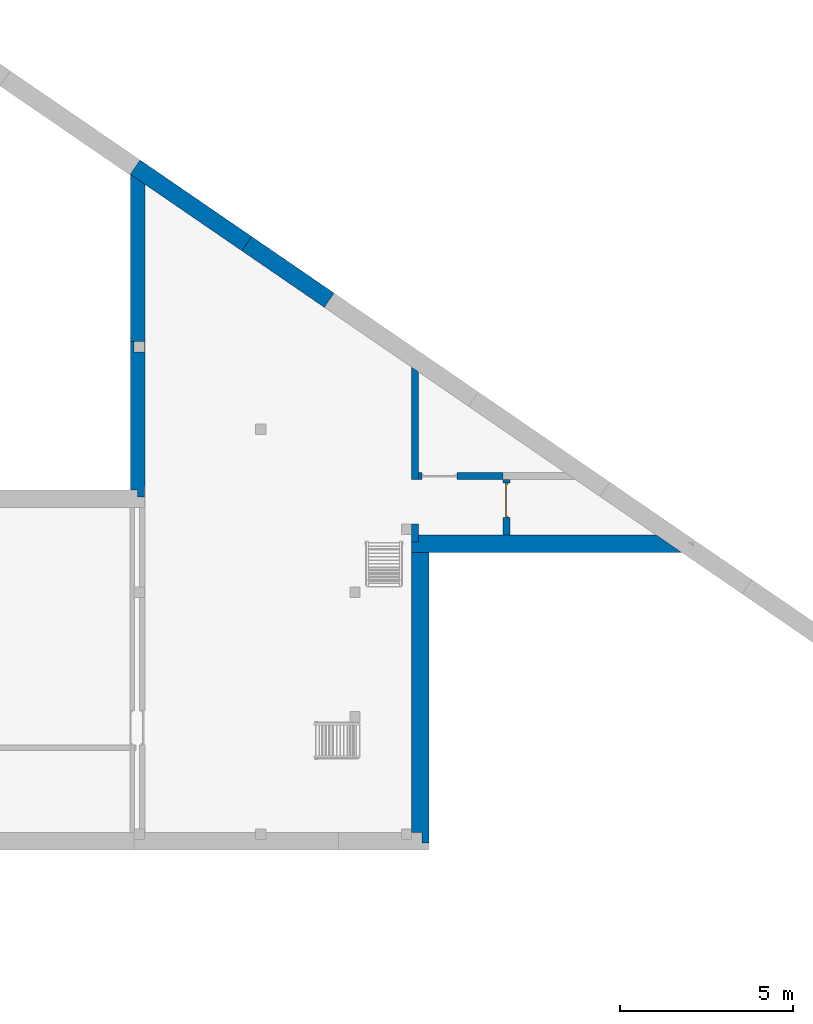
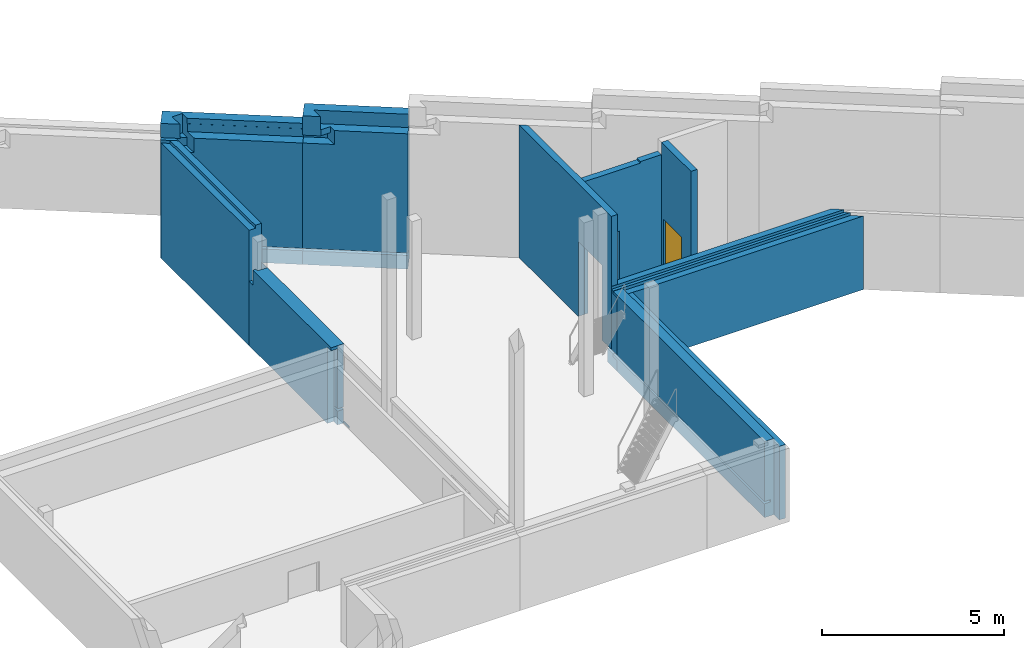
# One storey, part 6 of 8: 9 walls, 1 door, 3 openings.
"""IFC2X3 building model written with IfcOpenShell, lengths in millimetres."""

from ifc_helpers import new_model, entity, si_unit, converted_unit, derived_unit, money_unit, direction, frame, origin_with_axes, place, context, subcontext, project, spatial, faceted_brep, material, material_list, type_object, element, fill, save


model = new_model("IFC2X3")

# Units and contexts
model_context = context("Model", 3, precision=0.01, world=origin_with_axes(), true_north=direction((0.0, 1.0)))
body_context = subcontext(model_context, "Body", "Model", "MODEL_VIEW")
ifc_project = project(units=[si_unit("LENGTHUNIT", "METRE", prefix="MILLI"), si_unit("AREAUNIT", "SQUARE_METRE"), si_unit("VOLUMEUNIT", "CUBIC_METRE"), converted_unit("PLANEANGLEUNIT", "DEGREE", entity("IfcPlaneAngleMeasure", 0.0174532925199), si_unit("PLANEANGLEUNIT", "RADIAN"), dimensions=[0, 0, 0, 0, 0, 0, 0]), si_unit("SOLIDANGLEUNIT", "STERADIAN"), money_unit("EUR"), converted_unit("TIMEUNIT", "Year", entity("IfcTimeMeasure", 31556926.0), si_unit("TIMEUNIT", "SECOND"), dimensions=[0, 0, 1, 0, 0, 0, 0]), si_unit("MASSUNIT", "GRAM", prefix="KILO"), si_unit("THERMODYNAMICTEMPERATUREUNIT", "DEGREE_CELSIUS"), si_unit("LUMINOUSINTENSITYUNIT", "LUMEN"), si_unit("ENERGYUNIT", "JOULE", prefix="MEGA"), derived_unit("THERMALCONDUCTANCEUNIT", [(si_unit("POWERUNIT", "WATT"), 1), (si_unit("LENGTHUNIT", "METRE"), -1), (si_unit("THERMODYNAMICTEMPERATUREUNIT", "KELVIN"), -1)]), derived_unit("SPECIFICHEATCAPACITYUNIT", [(si_unit("ENERGYUNIT", "JOULE"), 1), (si_unit("MASSUNIT", "GRAM", prefix="KILO"), -1), (si_unit("THERMODYNAMICTEMPERATUREUNIT", "KELVIN"), -1)]), derived_unit("MASSDENSITYUNIT", [(si_unit("MASSUNIT", "GRAM", prefix="KILO"), 1), (si_unit("VOLUMEUNIT", "CUBIC_METRE"), -1)])], contexts=[model_context])

# Site, building, storey
site_placement = place(None, origin_with_axes())
site = spatial("IfcSite", under=ifc_project, at=site_placement, Name="L.Koidula tn 11b", CompositionType="ELEMENT")
building_placement = place(site_placement, origin_with_axes())
building = spatial("IfcBuilding", under=site, at=building_placement, Name="Rakvere Riigigümnaasium", CompositionType="ELEMENT")
storey_placement = place(building_placement, frame((0.0, 0.0, -2100.0), z_axis=(0.0, 0.0, 1.0), x_axis=(1.0, 0.0, 0.0)))
storey = spatial("IfcBuildingStorey", under=building, at=storey_placement, Name="1.korrus_tehniline -2,10", CompositionType="ELEMENT", Elevation=-2100.0)

# Walls
ifc_material_1 = material(Name="Krohv")
ifc_material_2 = material(Name="Betoon element / plaat")
ifc_material_3 = material(Name="SOJ-04_Soojustus - Mineraal Kõva")
ifc_material_list_1 = material_list([ifc_material_1, ifc_material_2, ifc_material_3])
wall_type_1 = type_object("IfcWallType", Name="VS-04-1 410", PredefinedType="NOTDEFINED")
wall_1_placement = place(storey_placement, frame((58180.0348101, 31500.4554969, -550.0), z_axis=(0.0, 0.0, 1.0), x_axis=(0.0, -1.0, 0.0)))
element("IfcWall", 1, at=wall_1_placement, inside=storey, type_object=wall_type_1, material=ifc_material_list_1, Name="Soklisein", context=body_context, shape_type="Brep", body=[
    faceted_brep([(4199.99994967, 10.0, 2550.0), (4199.99994716, 10.0, 550.0), (0.0, 10.0, 550.0), (0.0, 10.0, 2650.0), (4499.99994967, 10.0, 2650.0), (4499.99994967, 10.0, 2550.0), (4199.99994967, -2.01166017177e-06, 2550.0), (4199.99994716, 0.0, 550.0), (0.0, 0.0, 550.0), (0.0, 0.0, 2650.0), (4499.99994967, 0.0, 2650.0), (4499.99994967, -1.95063876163e-06, 2550.0)], [[[0, 1, 2, 3, 4, 5]], [[6, 7, 1, 0]], [[7, 8, 2, 1]], [[3, 2, 8, 9]], [[4, 3, 9, 10]], [[4, 10, 11, 5]], [[11, 6, 0, 5]], [[9, 8, 7, 6, 11, 10]]]),
    faceted_brep([(0.0, 0.0, 60.0), (0.0, 10.0, 60.0), (0.0, 10.0, 0.0), (0.0, 0.0, 0.0), (4799.99994967, 10.0, 60.0), (4799.99994967, 0.0, 60.0), (4799.99994967, 10.0, 0.0), (4799.99994967, 0.0, 0.0)], [[[0, 1, 2, 3]], [[4, 1, 0, 5]], [[1, 4, 6, 2]], [[3, 2, 6, 7]], [[5, 0, 3, 7]], [[4, 5, 7, 6]]]),
    faceted_brep([(2.38450681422e-06, -200.0, 550.0), (2.38450681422e-06, 7.17945596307e-05, 550.0), (0.0, 0.0, 540.0), (0.0, -200.0, 540.0), (300.000002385, 7.17945596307e-05, 550.0), (300.000002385, -200.0, 550.0), (300.000002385, 7.17945596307e-05, 2650.0), (4499.99994967, 0.0, 2650.0), (4499.99994967, 0.0, 540.0), (4499.99994967, -200.0, 540.0), (4499.99994967, -200.0, 2650.0), (300.000002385, -200.0, 2650.0)], [[[0, 1, 2, 3]], [[4, 1, 0, 5]], [[4, 6, 7, 8, 2, 1]], [[9, 3, 2, 8]], [[5, 0, 3, 9, 10, 11]], [[11, 6, 4, 5]], [[6, 11, 10, 7]], [[10, 9, 8, 7]]]),
    faceted_brep([(0.0, -200.0, 460.0), (0.0, 0.0, 460.0), (0.0, 0.0, 0.0), (0.0, -200.0, 0.0), (4499.99994967, 0.0, 460.0), (4499.99994967, -200.0, 460.0), (4499.99994967, 0.0, 0.0), (4499.99994967, -200.0, 0.0)], [[[0, 1, 2, 3]], [[4, 1, 0, 5]], [[1, 4, 6, 2]], [[2, 6, 7, 3]], [[5, 0, 3, 7]], [[4, 5, 7, 6]]]),
    faceted_brep([(2.38450681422e-06, -299.999928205, 2150.0), (2.38450681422e-06, -299.999928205, 550.0), (2.38450681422e-06, -200.0, 550.0), (0.0, -200.0, 0.0), (0.0, -400.0, 0.0), (-3.33873373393e-07, -400.0, 2150.0), (209.99998167, -299.999928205, 2150.0), (209.99998167, -299.999928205, 2650.0), (300.000002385, -299.999928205, 2650.0), (300.000002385, -299.999928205, 550.0), (300.000002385, -200.0, 550.0), (300.000002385, -200.0, 2650.0), (4499.99994967, -200.0, 2650.0), (4499.99994967, -200.0, 2550.0), (4299.99994967, -200.0, 2550.0), (4299.99994967, -200.0, 0.0), (4299.99994967, -400.0, 0.0), (4299.99994967, -400.0, 2550.0), (4499.99994967, -400.0, 2550.0), (4499.99994967, -400.0, 2650.0), (209.99998167, -400.0, 2650.0), (209.99998167, -400.0, 2150.0)], [[[0, 1, 2, 3, 4, 5]], [[1, 0, 6, 7, 8, 9]], [[10, 2, 1, 9]], [[10, 11, 12, 13, 14, 15, 3, 2]], [[4, 3, 15, 16]], [[4, 16, 17, 18, 19, 20, 21, 5]], [[6, 0, 5, 21]], [[7, 6, 21, 20]], [[8, 7, 20, 19, 12, 11]], [[8, 11, 10, 9]], [[12, 19, 18, 13]], [[18, 17, 14, 13]], [[16, 15, 14, 17]]]),
])
wall_2_placement = place(storey_placement, frame((58180.0348101, 36047.6974493, -550.0), z_axis=(0.0, 0.0, 1.0), x_axis=(0.0, -1.0, 0.0)))
element("IfcWall", 2, at=wall_2_placement, inside=storey, type_object=wall_type_1, material=ifc_material_list_1, Name="Soklisein", context=body_context, shape_type="Brep", body=[
    faceted_brep([(6.8587745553, 10.0, 3554.82181515), (4547.24187147, 10.0, 3554.82181515), (4547.24193992, 10.0, 550.0), (6.8587745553, 10.0, 550.0), (0.0, 0.0, 3554.82181515), (4547.24187147, 0.0, 3554.82181515), (4547.24193992, 0.0, 550.0), (0.0, 0.0, 550.0)], [[[0, 1, 2, 3]], [[4, 5, 1, 0]], [[1, 5, 6, 2]], [[2, 6, 7, 3]], [[4, 0, 3, 7]], [[5, 4, 7, 6]]]),
    faceted_brep([(0.0, 0.0, 60.0), (6.8587745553, 10.0, 60.0), (6.8587745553, 10.0, 0.0), (0.0, 0.0, 0.0), (4547.24195108, 10.0, 60.0), (4547.24195108, 0.0, 60.0), (4547.24195245, 10.0, 0.0), (4547.24195245, 0.0, 0.0)], [[[0, 1, 2, 3]], [[4, 1, 0, 5]], [[1, 4, 6, 2]], [[3, 2, 6, 7]], [[5, 0, 3, 7]], [[4, 5, 7, 6]]]),
    faceted_brep([(0.0, 0.0, 3954.82181515), (4547.24195245, 0.0, 3954.82181515), (4547.24195245, 0.0, 540.0), (0.0, 0.0, 540.0), (-137.175491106, -200.0, 3954.82181515), (4547.24195245, -200.0, 3954.82181515), (4547.24195245, -200.0, 540.0), (-137.175491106, -200.0, 540.0)], [[[0, 1, 2, 3]], [[4, 5, 1, 0]], [[1, 5, 6, 2]], [[2, 6, 7, 3]], [[4, 0, 3, 7]], [[5, 4, 7, 6]]]),
    faceted_brep([(-137.175491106, -200.0, 460.0), (0.0, 0.0, 460.0), (0.0, 0.0, 0.0), (-137.175491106, -200.0, 0.0), (4547.24195245, 0.0, 460.0), (4547.24195245, -200.0, 460.0), (4547.24195245, 0.0, 0.0), (4547.24195245, -200.0, 0.0)], [[[0, 1, 2, 3]], [[4, 1, 0, 5]], [[1, 4, 6, 2]], [[7, 3, 2, 6]], [[5, 0, 3, 7]], [[4, 5, 7, 6]]]),
    faceted_brep([(-137.175491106, -200.0, 0.0), (-274.350982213, -400.0, 0.0), (-274.350982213, -400.0, 3854.82181515), (-137.175491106, -200.0, 3854.82181515), (4547.24195245, -200.0, 0.0), (4547.24195245, -400.0, 0.0), (4547.24187147, -400.0, 3854.82181515), (4547.24187147, -200.0, 3854.82181515)], [[[0, 1, 2, 3]], [[0, 4, 5, 1]], [[1, 5, 6, 2]], [[2, 6, 7, 3]], [[4, 0, 3, 7]], [[5, 4, 7, 6]]]),
])

# Wall, opening
wall_type_2 = type_object("IfcWallType", Name="SS-01 200", PredefinedType="NOTDEFINED")
wall_3_placement = place(storey_placement, frame((65899.9980729, 30752.7510767, 0.0), z_axis=(0.0, 0.0, 1.0), x_axis=(0.0, -1.0, 0.0)))
wall_3 = element("IfcWall", 3, at=wall_3_placement, inside=storey, type_object=wall_type_2, material=ifc_material_2, Name="Sisesein", context=body_context, shape_type="Brep", body=[
    faceted_brep([(5051.8138999, 200.0, 0.0), (4531.87989646, 200.0, 0.0), (4531.87989646, 200.0, 2500.0), (3241.87989646, 200.0, 2500.0), (3241.87989646, 200.0, 0.0), (137.177877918, 200.0, 0.0), (137.177877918, 200.0, 4445.0), (5051.8138999, 200.0, 4445.0), (5051.8138999, 0.0, 0.0), (4531.87989646, 0.0, 0.0), (4531.87989646, 0.0, 2500.0), (3241.87989646, 0.0, 2500.0), (3241.87989646, 0.0, 0.0), (0.00238681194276, 0.0, 0.0), (0.00238681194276, 0.0, 4445.0), (5051.8138999, 0.0, 4445.0)], [[[0, 1, 2, 3, 4, 5, 6, 7]], [[8, 9, 1, 0]], [[10, 2, 1, 9]], [[11, 3, 2, 10]], [[12, 4, 3, 11]], [[5, 4, 12, 13]], [[13, 14, 6, 5]], [[15, 7, 6, 14]], [[0, 7, 15, 8]], [[11, 10, 9, 8, 15, 14, 13, 12]]]),
])
opening_1_placement = place(wall_3_placement, frame((3886.87989646, 0.0, 0.0), z_axis=(0.0, 0.0, 1.0), x_axis=(1.0, 0.0, 0.0)))
element("IfcOpeningElement", 4, at=opening_1_placement, cuts=wall_3, Name="ava", context=body_context, shape_type="Brep", body=[
    faceted_brep([(645.0, 200.0, 0.0), (645.0, 200.0, 2500.0), (645.0, -400.0, 2500.0), (645.0, -400.0, 0.0), (-645.0, 200.0, 0.0), (-645.0, 200.0, 2500.0), (-645.0, -400.0, 2500.0), (-645.0, -400.0, 0.0)], [[[0, 1, 2, 3]], [[0, 4, 5, 1]], [[1, 5, 6, 2]], [[3, 2, 6, 7]], [[4, 0, 3, 7]], [[5, 4, 7, 6]]]),
])

wall_4_placement = place(storey_placement, frame((65899.9980729, 27509.4129866, 0.0), z_axis=(0.0, 0.0, 1.0), x_axis=(1.0, 0.0, 0.0)))
wall_4 = element("IfcWall", 5, at=wall_4_placement, inside=storey, type_object=wall_type_2, material=ifc_material_2, Name="Sisesein", context=body_context, shape_type="Brep", body=[
    faceted_brep([(1302.00000012, 200.0, 2400.0), (1302.00000012, 200.0, 0.0), (1302.00000012, 0.0, 0.0), (1302.00000012, 0.0, 2400.0), (1965.01142906, 200.0, 4495.0), (2634.97113664, 200.0, 4495.0), (2634.97113664, 200.0, 0.0), (302.0, 200.0, 2400.0), (302.0, 200.0, 0.0), (200.0, 200.0, 0.0), (200.0, 200.0, 4445.0), (1965.01142906, 200.0, 4445.0), (2634.97113664, 0.0, 0.0), (302.0, 0.0, 0.0), (302.0, 0.0, 2400.0), (2634.97113664, 0.0, 4495.0), (1965.01142906, 0.0, 4495.0), (1965.01142906, 0.0, 4445.0), (200.0, 0.0, 4445.0), (200.0, 0.0, 0.0)], [[[0, 1, 2, 3]], [[4, 5, 6, 1, 0, 7, 8, 9, 10, 11]], [[6, 12, 2, 1]], [[13, 14, 3, 2, 12, 15, 16, 17, 18, 19]], [[14, 7, 0, 3]], [[5, 4, 16, 15]], [[15, 12, 6, 5]], [[8, 7, 14, 13]], [[9, 8, 13, 19]], [[19, 18, 10, 9]], [[17, 11, 10, 18]], [[17, 16, 4, 11]]]),
])
opening_2_placement = place(wall_4_placement, frame((802.000000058, 0.0, 0.0), z_axis=(0.0, 0.0, 1.0), x_axis=(1.0, 0.0, 0.0)))
element("IfcOpeningElement", 6, at=opening_2_placement, cuts=wall_4, Name="SU-031", context=body_context, shape_type="Brep", body=[
    faceted_brep([(500.000000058, 150.0, 0.0), (500.000000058, 150.0, 2400.0), (500.000000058, -200.0, 2400.0), (500.000000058, -200.0, 0.0), (-500.000000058, 150.0, 0.0), (-500.000000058, 150.0, 2400.0), (-500.000000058, -200.0, 2400.0), (-500.000000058, -200.0, 0.0)], [[[0, 1, 2, 3]], [[0, 4, 5, 1]], [[1, 5, 6, 2]], [[3, 2, 6, 7]], [[4, 0, 3, 7]], [[5, 4, 7, 6]]]),
    faceted_brep([(500.000000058, 150.0, 2400.0), (500.000000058, 150.0, 0.0), (500.000000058, 400.0, 0.0), (500.000000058, 400.0, 2400.0), (-500.000000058, 150.0, 2400.0), (-500.000000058, 150.0, 0.0), (-500.000000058, 400.0, 0.0), (-500.000000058, 400.0, 2400.0)], [[[0, 1, 2, 3]], [[0, 4, 5, 1]], [[1, 5, 6, 2]], [[3, 2, 6, 7]], [[4, 0, 3, 7]], [[5, 4, 7, 6]]]),
])

# Wall, opening, door
wall_5_placement = place(storey_placement, frame((68734.9692095, 27509.4129866, 0.0), z_axis=(0.0, 0.0, 1.0), x_axis=(0.0, -1.0, 0.0)))
wall_5 = element("IfcWall", 7, at=wall_5_placement, inside=storey, type_object=wall_type_2, material=ifc_material_2, Name="Sisesein", context=body_context, shape_type="Brep", body=[
    faceted_brep([(1099.97580984, 0.0, 2400.0), (1099.97580984, -200.0, 2400.0), (99.9758097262, -200.0, 2400.0), (99.9758097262, 0.0, 2400.0), (1099.97580984, -50.0, 0.0), (1099.97580984, -200.0, 0.0), (1099.97580984, 0.0, 0.0), (1609.97575466, -200.0, 0.0), (1609.97575466, -200.0, 4910.0), (0.0, -200.0, 4910.0), (0.0, -200.0, 0.0), (99.9758097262, -200.0, 0.0), (99.9758097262, -50.0, 0.0), (99.9758097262, 0.0, 0.0), (0.0, 0.0, 4910.0), (1609.97575466, 0.0, 4910.0), (1609.97575466, 0.0, 0.0), (0.0, 0.0, 0.0)], [[[0, 1, 2, 3]], [[4, 5, 1, 0, 6]], [[1, 5, 7, 8, 9, 10, 11, 2]], [[3, 2, 11, 12, 13]], [[14, 15, 16, 6, 0, 3, 13, 17]], [[5, 4, 6, 16, 7]], [[8, 7, 16, 15]], [[14, 9, 8, 15]], [[14, 17, 10, 9]], [[12, 11, 10, 17, 13]]]),
])
opening_3_placement = place(wall_5_placement, frame((599.975809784, 0.0, 0.0), z_axis=(0.0, 0.0, 1.0), x_axis=(1.0, 0.0, 0.0)))
opening_3 = element("IfcOpeningElement", 8, at=opening_3_placement, cuts=wall_5, Name="SU-032", context=body_context, shape_type="Brep", body=[
    faceted_brep([(-500.000000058, -400.0, 0.0), (-500.000000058, -400.0, 2400.0), (-500.000000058, -50.0, 2400.0), (-500.000000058, -50.0, 0.0), (500.000000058, -400.0, 0.0), (500.000000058, -400.0, 2400.0), (500.000000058, -50.0, 2400.0), (500.000000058, -50.0, 0.0)], [[[0, 1, 2, 3]], [[0, 4, 5, 1]], [[1, 5, 6, 2]], [[3, 2, 6, 7]], [[4, 0, 3, 7]], [[5, 4, 7, 6]]]),
    faceted_brep([(-500.000000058, 200.0, 2400.0), (-500.000000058, 200.0, 0.0), (-500.000000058, -50.0, 0.0), (-500.000000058, -50.0, 2400.0), (500.000000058, 200.0, 2400.0), (500.000000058, 200.0, 0.0), (500.000000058, -50.0, 0.0), (500.000000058, -50.0, 2400.0)], [[[0, 1, 2, 3]], [[0, 4, 5, 1]], [[1, 5, 6, 2]], [[3, 2, 6, 7]], [[4, 0, 3, 7]], [[5, 4, 7, 6]]]),
])
door_style = type_object("IfcDoorStyle", Name="Door 23", ConstructionType="NOTDEFINED", OperationType="SINGLE_SWING_RIGHT", ParameterTakesPrecedence=False, Sizeable=False)
door_placement = place(opening_3_placement, frame((500.000000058, 0.0, 0.0), z_axis=(0.0, 0.0, 1.0), x_axis=(-1.0, 0.0, 0.0)))
door = element("IfcDoor", 9, at=door_placement, inside=storey, type_object=door_style, Name="SU-032", ObjectType="DOOR", OverallHeight=2400.0, OverallWidth=1000.0, context=body_context, shape_type="Brep", body=[
    faceted_brep([(50.0, 90.0, 0.0), (50.0, 90.0, 2350.0), (50.0, 50.0, 2350.0), (50.0, 50.0, 0.0), (38.0, 90.0, 2350.0), (38.0, 90.0, 0.0), (38.0, 130.0, 2350.0), (0.0, 130.0, 2350.0), (0.0, 50.0, 2350.0), (0.0, 50.0, 0.0), (0.0, 130.0, 0.0), (38.0, 130.0, 0.0)], [[[0, 1, 2, 3]], [[4, 1, 0, 5]], [[4, 6, 7, 8, 2, 1]], [[3, 2, 8, 9]], [[5, 0, 3, 9, 10, 11]], [[6, 4, 5, 11]], [[6, 11, 10, 7]], [[10, 9, 8, 7]]]),
    faceted_brep([(962.000000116, 90.0, 2350.0), (950.000000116, 90.0, 2350.0), (950.000000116, 50.0, 2350.0), (1000.00000012, 50.0, 2350.0), (1000.00000012, 130.0, 2350.0), (962.000000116, 130.0, 2350.0), (962.000000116, 90.0, 0.0), (950.000000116, 90.0, 0.0), (950.000000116, 50.0, 0.0), (1000.00000012, 50.0, 0.0), (1000.00000012, 130.0, 0.0), (962.000000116, 130.0, 0.0)], [[[0, 1, 2, 3, 4, 5]], [[1, 0, 6, 7]], [[1, 7, 8, 2]], [[3, 2, 8, 9]], [[4, 3, 9, 10]], [[11, 5, 4, 10]], [[0, 5, 11, 6]], [[6, 11, 10, 9, 8, 7]]]),
    faceted_brep([(38.0, 130.0, 2362.0), (38.0, 130.0, 2350.0), (0.0, 130.0, 2350.0), (0.0, 130.0, 2400.0), (1000.00000012, 130.0, 2400.0), (1000.00000012, 130.0, 2350.0), (962.000000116, 130.0, 2350.0), (962.000000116, 130.0, 2362.0), (38.0, 90.0, 2362.0), (38.0, 90.0, 2350.0), (50.0, 90.0, 2350.0), (50.0, 50.0, 2350.0), (0.0, 50.0, 2350.0), (0.0, 50.0, 2400.0), (1000.00000012, 50.0, 2400.0), (1000.00000012, 50.0, 2350.0), (962.000000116, 90.0, 2350.0), (950.000000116, 50.0, 2350.0), (950.000000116, 90.0, 2350.0), (962.000000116, 90.0, 2362.0)], [[[0, 1, 2, 3, 4, 5, 6, 7]], [[1, 0, 8, 9]], [[9, 10, 11, 12, 2, 1]], [[2, 12, 13, 3]], [[3, 13, 14, 4]], [[4, 14, 15, 5]], [[16, 6, 5, 15, 17, 18]], [[7, 6, 16, 19]], [[0, 7, 19, 8]], [[16, 18, 10, 9, 8, 19]], [[10, 18, 17, 11]], [[17, 15, 14, 13, 12, 11]]]),
    faceted_brep([(962.000000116, 130.0, 0.0), (962.000000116, 90.0, 0.0), (38.0, 90.0, 0.0), (38.0, 130.0, 0.0), (962.000000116, 130.0, 2362.0), (962.000000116, 90.0, 2362.0), (38.0, 90.0, 2362.0), (38.0, 130.0, 2362.0)], [[[0, 1, 2, 3]], [[4, 5, 1, 0]], [[1, 5, 6, 2]], [[3, 2, 6, 7]], [[0, 3, 7, 4]], [[7, 6, 5, 4]]]),
])
fill(opening_3, door)

# Walls
ifc_material_list_2 = material_list([ifc_material_3, ifc_material_2])
wall_type_3 = type_object("IfcWallType", Name="VS-07 500", PredefinedType="NOTDEFINED")
wall_6_placement = place(storey_placement, frame((65899.9980729, 25700.9371768, -549.988775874), z_axis=(0.0, 0.0, 1.0), x_axis=(0.0, -1.0, 0.0)))
element("IfcWall", 10, at=wall_6_placement, inside=storey, type_object=wall_type_3, material=ifc_material_list_2, Name="Soklisein", context=body_context, shape_type="Brep", body=[
    faceted_brep([(3.0, 300.0, 2549.9887759), (3.0, 500.0, 2549.9887759), (0.0, 500.0, 2549.9887759), (0.0, 300.0, 2549.9887759), (3.0, 500.0, 2459.98877587), (3.0, 300.0, 2459.98877587), (8690.48165424, 500.0, 2459.98877587), (8690.48165424, 500.0, 0.0), (0.0, 500.0, 0.0), (0.0, 500.0, 359.988775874), (2.00000211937, 500.0, 359.988775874), (2.00000211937, 500.0, 544.988775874), (0.0, 500.0, 544.988775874), (0.0, 300.0, 544.988775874), (2.00000211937, 300.0, 544.988775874), (2.00000211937, 300.0, 359.988775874), (0.0, 300.0, 359.988775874), (0.0, 300.0, 0.0), (8690.48165424, 300.0, 0.0), (8690.48165424, 300.0, 2459.98877587)], [[[0, 1, 2, 3]], [[4, 1, 0, 5]], [[4, 6, 7, 8, 9, 10, 11, 12, 2, 1]], [[12, 13, 3, 2]], [[5, 0, 3, 13, 14, 15, 16, 17, 18, 19]], [[4, 5, 19, 6]], [[6, 19, 18, 7]], [[7, 18, 17, 8]], [[16, 9, 8, 17]], [[10, 9, 16, 15]], [[10, 15, 14, 11]], [[13, 12, 11, 14]]]),
    faceted_brep([(2.00000211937, 300.0, 459.988775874), (2.00000211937, 300.0, 539.988775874), (0.0, 300.0, 539.988775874), (0.0, 300.0, 2549.9887759), (8390.48165424, 300.0, 2549.9887759), (8390.48165424, 300.0, 0.0), (0.0, 300.0, 0.0), (0.0, 300.0, 459.988775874), (2.00000211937, 200.000024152, 459.988775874), (2.00000211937, 200.000024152, 539.988775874), (0.0, 0.0, 539.988775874), (8390.48165424, 200.000024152, 539.988775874), (8390.48165424, 0.0, 539.988775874), (0.0, 0.0, 2549.9887759), (8390.48165424, 0.0, 2549.9887759), (8390.48165424, 200.000024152, 459.988775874), (8390.48165424, 0.0, 459.988775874), (8390.48165424, 0.0, 0.0), (0.0, 0.0, 0.0), (0.0, 0.0, 459.988775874)], [[[0, 1, 2, 3, 4, 5, 6, 7]], [[1, 0, 8, 9]], [[10, 2, 1, 9, 11, 12]], [[2, 10, 13, 3]], [[14, 4, 3, 13]], [[15, 16, 17, 5, 4, 14, 12, 11]], [[5, 17, 18, 6]], [[19, 7, 6, 18]], [[8, 0, 7, 19, 16, 15]], [[9, 8, 15, 11]], [[10, 12, 14, 13]], [[19, 18, 17, 16]]]),
])
ifc_material_list_3 = material_list([ifc_material_2, ifc_material_3])
wall_7_placement = place(storey_placement, frame((65899.9980729, 25898.9371747, -550.0), z_axis=(0.0, 0.0, 1.0), x_axis=(1.0, 0.0, 0.0)))
element("IfcWall", 11, at=wall_7_placement, inside=storey, type_object=wall_type_3, material=ifc_material_list_3, Name="Soklisein", context=body_context, shape_type="Brep", body=[
    faceted_brep([(7369.85094432, -200.999997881, 2560.0), (7514.19130075, -300.0, 2560.0), (7514.19130075, -300.0, 0.0), (7076.79629063, 0.0, 0.0), (7076.79629063, 0.0, 460.0), (7368.39296404, -200.0, 460.0), (7368.39296404, -200.0, 540.0), (7076.79629063, 0.0, 540.0), (7076.79629063, 0.0, 2650.0), (7369.85094432, -200.999997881, 2650.0), (0.0, -300.0, 2560.0), (0.0, -200.999997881, 2560.0), (0.0, -300.0, 540.0), (200.000024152, -300.0, 540.0), (200.000024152, -300.0, 460.0), (0.0, -300.0, 460.0), (0.0, -300.0, 0.0), (0.0, 0.0, 0.0), (0.0, 0.0, 460.0), (200.000024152, -200.0, 460.0), (200.000024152, -200.0, 540.0), (0.0, 0.0, 540.0), (0.0, 0.0, 550.0), (200.0, 0.0, 550.0), (200.0, 0.0, 2650.0), (0.0, -200.999997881, 2650.0), (200.0, -197.999997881, 2650.0), (0.0, -197.999997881, 2650.0), (0.0, -197.999997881, 550.0), (200.0, -197.999997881, 550.0)], [[[0, 1, 2, 3, 4, 5, 6, 7, 8, 9]], [[10, 1, 0, 11]], [[1, 10, 12, 13, 14, 15, 16, 2]], [[3, 2, 16, 17]], [[18, 4, 3, 17]], [[18, 15, 14, 19, 5, 4]], [[19, 20, 6, 5]], [[20, 13, 12, 21, 7, 6]], [[21, 22, 23, 24, 8, 7]], [[25, 9, 8, 24, 26, 27]], [[11, 0, 9, 25]], [[11, 25, 27, 28, 22, 21, 12, 10]], [[20, 19, 14, 13]], [[15, 18, 17, 16]], [[29, 23, 22, 28]], [[29, 26, 24, 23]], [[28, 27, 26, 29]]]),
    faceted_brep([(7514.19130075, -300.0, 2460.0), (7805.78797416, -500.0, 2460.0), (7805.78797416, -500.0, 0.0), (7514.19130075, -300.0, 0.0), (0.0, -500.0, 2460.0), (0.0, -300.0, 2460.0), (0.0, -500.0, 550.0), (0.0, -500.0, 545.0), (200.000024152, -500.0, 545.0), (200.000024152, -500.0, 360.0), (0.0, -500.0, 360.0), (0.0, -500.0, 0.0), (0.0, -300.0, 0.0), (0.0, -300.0, 360.0), (200.000024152, -300.0, 360.0), (200.000024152, -300.0, 545.0), (0.0, -300.0, 545.0)], [[[0, 1, 2, 3]], [[4, 1, 0, 5]], [[1, 4, 6, 7, 8, 9, 10, 11, 2]], [[2, 11, 12, 3]], [[5, 0, 3, 12, 13, 14, 15, 16]], [[4, 5, 16, 7, 6]], [[16, 15, 8, 7]], [[15, 14, 9, 8]], [[14, 13, 10, 9]], [[10, 13, 12, 11]]]),
])
ifc_material_4 = material(Name="Betoon")
ifc_material_list_4 = material_list([ifc_material_4, ifc_material_3, ifc_material_2])
wall_type_4 = type_object("IfcWallType", Name="VS-07-1 600", PredefinedType="NOTDEFINED")
wall_8_placement = place(storey_placement, frame((57768.9224763, 36329.6701308, -550.0), z_axis=(0.0, 0.0, 1.0), x_axis=(0.824666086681, -0.565619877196, 0.0)))
element("IfcWall", 12, at=wall_8_placement, inside=storey, type_object=wall_type_4, material=ifc_material_list_4, Name="Välissein", context=body_context, shape_type="Brep", body=[
    faceted_brep([(3910.42588077, 500.0, 4004.89749734), (3910.42588077, 600.0, 4004.89750012), (3910.42588077, 600.0, 4510.0), (3910.42588077, 500.0, 4510.0), (0.0, 600.0, 3606.30871751), (0.0, 500.0, 3606.30871473), (0.0, 600.0, 4510.0), (0.0, 500.0, 4510.0), (534.389499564, 500.0, 4510.0), (561.093659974, 518.315781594, 4510.0), (573.65604165, 500.0, 4510.0), (573.65604165, 500.0, 3864.82181515), (534.389499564, 500.0, 3864.82181515), (561.093659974, 518.315781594, 3864.82181515)], [[[0, 1, 2, 3]], [[4, 1, 0, 5]], [[1, 4, 6, 2]], [[7, 8, 9, 10, 3, 2, 6]], [[5, 0, 3, 10, 11, 12, 8, 7]], [[4, 5, 7, 6]], [[12, 13, 9, 8]], [[13, 11, 10, 9]], [[11, 13, 12]]]),
    faceted_brep([(3910.42588077, 499.775335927, 0.0), (3910.42588077, 499.775335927, 4004.89749733), (3910.42588077, 500.0, 4004.89749734), (3910.42588077, 500.0, 4510.0), (3910.42588077, 303.886943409, 4510.0), (3910.42588077, 303.886943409, 4330.0), (3910.42588077, 300.0, 4330.0), (3910.42588077, 300.0, 0.0), (0.0, 499.774269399, 0.0), (0.0, 499.774269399, 3606.30871472), (0.0, 500.0, 3606.30871473), (0.0, 500.0, 4510.0), (534.389499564, 500.0, 4510.0), (534.389499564, 500.0, 3864.82181515), (573.65604165, 500.0, 3864.82181515), (573.65604165, 500.0, 4510.0), (708.165642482, 303.886831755, 4510.0), (708.165642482, 303.886831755, 4330.0), (710.831532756, 300.0, 4330.0), (292.756516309, 300.0, 3589.82181515), (292.756516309, 300.0, 4034.82181515), (322.795689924, 300.0, 4034.82181515), (322.795689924, 300.0, 4510.0), (0.0, 300.0, 4510.0), (0.0, 300.0, 0.0), (710.831535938, 300.0, 3589.82181515), (297.200512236, 337.317420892, 4510.0), (297.200512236, 337.317420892, 3864.82181515), (320.129809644, 303.886817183, 3864.82181515), (708.165655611, 303.886817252, 3864.82181515), (708.165655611, 303.886817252, 3589.82181515), (290.090636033, 303.886817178, 4034.82181515), (290.090636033, 303.886817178, 3589.82181515), (320.129809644, 303.886817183, 4034.82181515)], [[[0, 1, 2, 3, 4, 5, 6, 7]], [[1, 0, 8, 9]], [[10, 2, 1, 9]], [[2, 10, 11, 12, 13, 14, 15, 3]], [[15, 16, 4, 3]], [[4, 16, 17, 5]], [[18, 6, 5, 17]], [[19, 20, 21, 22, 23, 24, 7, 6, 18, 25]], [[8, 0, 7, 24]], [[9, 8, 24, 23, 11, 10]], [[11, 23, 22, 26, 12]], [[27, 13, 12, 26]], [[27, 28, 29, 14, 13]], [[14, 29, 30, 25, 18, 17, 16, 15]], [[31, 20, 19, 32]], [[31, 33, 21, 20]], [[21, 33, 28, 27, 26, 22]], [[32, 19, 25, 30]], [[30, 29, 28, 33, 31, 32]]]),
    faceted_brep([(552.811166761, 0.0, 4065.0), (552.811166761, 0.0, 4034.82181515), (347.047930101, 300.0, 4034.82181515), (347.047930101, 300.0, 4065.0), (0.0, 0.0, 4034.82181515), (528.326809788, 0.0, 4034.82181515), (528.558926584, 0.0, 4065.0), (528.558926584, 0.0, 4510.0), (0.0, 0.0, 4510.0), (322.565966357, 299.996510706, 4034.82181515), (0.0, 299.996510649, 4034.82181515), (0.0, 300.0, 4510.0), (322.795689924, 300.0, 4510.0), (322.795689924, 300.0, 4065.0)], [[[0, 1, 2, 3]], [[4, 5, 1, 0, 6, 7, 8]], [[5, 9, 2, 1]], [[3, 2, 9, 10, 11, 12, 13]], [[6, 0, 3, 13]], [[10, 9, 5, 4]], [[7, 6, 13, 12]], [[8, 7, 12, 11]], [[11, 10, 4, 8]]]),
    faceted_brep([(292.758909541, 299.996510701, 3954.82181515), (292.756516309, 300.0, 3589.82181515), (710.831535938, 300.0, 3589.82181515), (710.831532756, 300.0, 4065.0), (3910.42588077, 300.0, 4065.0), (3910.42588077, 299.996518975, 540.0), (38.1103885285, 299.996509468, 540.0), (38.1103885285, 299.996509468, 460.0), (3910.42588077, 299.996518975, 460.0), (3910.42588077, 300.0, 0.0), (0.0, 300.0, 0.0), (0.0, 299.996510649, 3954.82181515), (498.519752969, 0.0, 3589.82181515), (498.519752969, 0.0, 3954.82181515), (916.594772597, 0.0, 3589.82181515), (916.594769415, 0.0, 4065.0), (3910.42588077, 0.0, 4065.0), (3910.42588077, 0.0, 540.0), (243.87123111, 0.0, 540.0), (243.87123111, 0.0, 460.0), (3910.42588077, 0.0, 460.0), (3910.42588077, 0.0, 0.0), (0.0, 0.0, 0.0), (0.0, 0.0, 3954.82181515)], [[[0, 1, 2, 3, 4, 5, 6, 7, 8, 9, 10, 11]], [[12, 1, 0, 13]], [[14, 2, 1, 12]], [[3, 2, 14, 15]], [[15, 16, 4, 3]], [[16, 17, 5, 4]], [[5, 17, 18, 6]], [[19, 7, 6, 18]], [[8, 7, 19, 20]], [[9, 8, 20, 21]], [[21, 22, 10, 9]], [[22, 23, 11, 10]], [[23, 13, 0, 11]], [[14, 12, 13, 23, 22, 21, 20, 19, 18, 17, 16, 15]]]),
])
wall_9_placement = place(storey_placement, frame((60991.9009818, 34119.1018342, -550.0), z_axis=(0.0, 0.0, 1.0), x_axis=(0.824666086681, -0.565619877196, 0.0)))
element("IfcWall", 13, at=wall_9_placement, inside=storey, type_object=wall_type_4, material=ifc_material_list_4, Name="Välissein", context=body_context, shape_type="Brep", body=[
    faceted_brep([(2891.10374435, 500.0, 4299.36242014), (2891.10374435, 600.0, 4299.36242292), (2891.10374435, 600.0, 4975.0), (2891.10374435, 500.0, 4975.0), (0.0, 600.0, 4004.67290393), (0.0, 500.0, 4004.67290115), (0.0, 600.0, 4975.0), (0.0, 500.0, 4975.0)], [[[0, 1, 2, 3]], [[4, 1, 0, 5]], [[1, 4, 6, 2]], [[2, 6, 7, 3]], [[5, 0, 3, 7]], [[4, 5, 7, 6]]]),
    faceted_brep([(2891.10374435, 499.776123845, 0.0), (2891.10374435, 499.776123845, 4299.36242014), (2891.10374435, 500.0, 4299.36242014), (2891.10374435, 500.0, 4975.0), (2891.10374435, 300.023913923, 4975.0), (2891.10374435, 300.023913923, 4530.0), (2891.10374435, 300.0, 4530.0), (2891.10374435, 300.0, 0.0), (0.0, 499.775335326, 0.0), (0.0, 499.775335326, 4004.67290115), (0.0, 500.0, 4004.67290115), (0.0, 500.0, 4975.0), (276.977509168, 300.021045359, 4975.0), (0.0, 300.0, 4975.0), (276.991943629, 300.0, 4975.0), (276.977509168, 300.021045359, 4795.0), (301.22969046, 300.021071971, 4795.0), (301.22969046, 300.021071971, 4530.0), (301.244143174, 300.0, 4530.0), (301.244143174, 300.0, 4795.0), (276.991943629, 300.0, 4795.0), (0.0, 300.0, 0.0)], [[[0, 1, 2, 3, 4, 5, 6, 7]], [[1, 0, 8, 9]], [[10, 2, 1, 9]], [[2, 10, 11, 3]], [[12, 4, 3, 11, 13, 14]], [[15, 16, 17, 5, 4, 12]], [[18, 6, 5, 17]], [[6, 18, 19, 20, 14, 13, 21, 7]], [[8, 0, 7, 21]], [[9, 8, 21, 13, 11, 10]], [[14, 20, 15, 12]], [[20, 19, 16, 15]], [[17, 16, 19, 18]]]),
    faceted_brep([(0.0, 300.0, 0.0), (0.0, 299.99651897, 460.0), (2891.10374435, 299.996526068, 460.0), (2891.10374435, 300.0, 0.0), (0.0, 0.0, 0.0), (0.0, 0.0, 460.0), (2891.10374435, 0.0, 460.0), (2891.10374435, 0.0, 0.0)], [[[0, 1, 2, 3]], [[4, 5, 1, 0]], [[5, 6, 2, 1]], [[3, 2, 6, 7]], [[7, 4, 0, 3]], [[7, 6, 5, 4]]]),
    faceted_brep([(2891.10374435, 0.0, 4530.0), (2891.10374435, 0.0, 540.0), (2891.10374435, 299.996526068, 540.0), (2891.10374435, 300.0, 4530.0), (0.0, 0.0, 4065.0), (0.0, 0.0, 540.0), (870.784911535, -0.00300682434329, 4530.0), (870.782941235, -0.00435820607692, 4330.0), (870.779952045, 0.0, 4065.0), (0.0, 299.99651897, 540.0), (0.0, 300.0, 4065.0), (665.01708225, 300.0, 4065.0), (665.01708225, 300.0, 4330.0), (0.0, 300.0, 4330.0), (0.0, 300.0, 4975.0), (276.991943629, 300.0, 4975.0), (276.991943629, 300.0, 4530.0), (507.006302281, 0.0, 4530.0), (499.247452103, 11.3123572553, 4530.0), (746.643107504, 180.994571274, 4530.0), (482.754102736, 0.0, 4530.0), (746.641046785, 180.993157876, 4330.0), (0.0, 0.0, 4330.0), (499.247452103, 11.3123572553, 4330.0), (507.006302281, 0.0, 4330.0), (0.0, 0.0, 4975.0), (482.754102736, 0.0, 4975.0)], [[[0, 1, 2, 3]], [[4, 5, 1, 0, 6, 7, 8]], [[5, 9, 2, 1]], [[3, 2, 9, 10, 11, 12, 13, 14, 15, 16]], [[17, 18, 19, 6, 0, 3, 16, 20]], [[10, 9, 5, 4]], [[7, 6, 19, 21]], [[21, 12, 11, 8, 7]], [[8, 11, 10, 4]], [[22, 13, 12, 21, 23, 24]], [[14, 13, 22, 25]], [[25, 26, 15, 14]], [[26, 20, 16, 15]], [[23, 18, 17, 24]], [[21, 19, 18, 23]], [[17, 20, 26, 25, 22, 24]]]),
])

save(model, "model.ifc")
